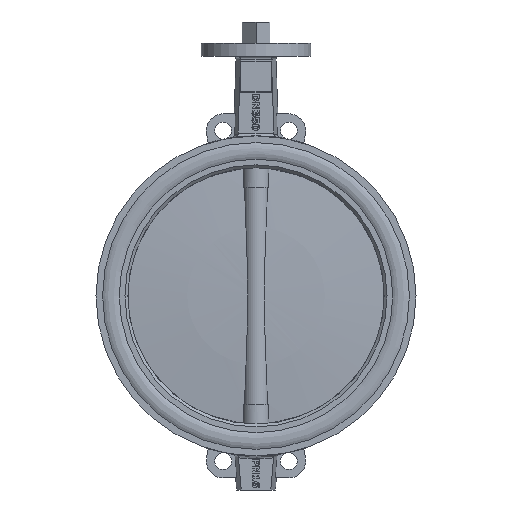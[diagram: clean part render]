
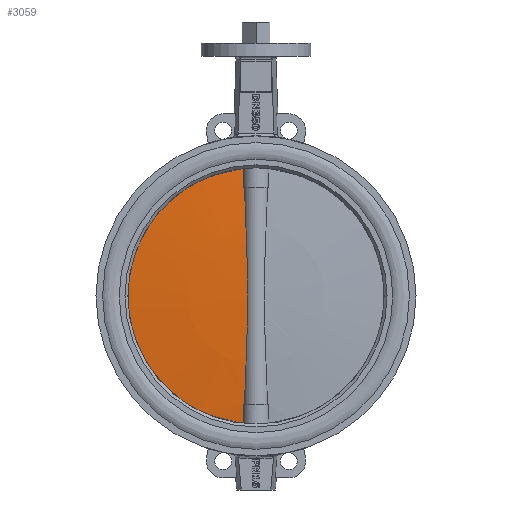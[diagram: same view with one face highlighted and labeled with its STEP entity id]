
A CAD part, left-side view. The second image highlights one B-rep face of the part: STEP entity #3059.
In plain terms, the highlighted spherical face has radius 2045.42 mm.
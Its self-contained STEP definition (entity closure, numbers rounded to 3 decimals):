
#3059=ADVANCED_FACE('',(#6642),#6644,.T.);
#6642=FACE_BOUND('',#6643,.T.);
#6643=EDGE_LOOP('',(#9570,#9571,#9572,#9573,#9574,#9575));
#6644=SPHERICAL_SURFACE('',#6645,2045.417);
#6645=AXIS2_PLACEMENT_3D('',#6646,#6647,#6648);
#6646=CARTESIAN_POINT('',(0.,-2031.917,0.));
#6647=DIRECTION('',(0.,-1.,0.));
#6648=DIRECTION('',(0.,0.,1.));
#9570=ORIENTED_EDGE('',*,*,#10709,.F.);
#9571=ORIENTED_EDGE('',*,*,#10721,.F.);
#9572=ORIENTED_EDGE('',*,*,#10722,.T.);
#9573=ORIENTED_EDGE('',*,*,#10723,.F.);
#9574=ORIENTED_EDGE('',*,*,#10692,.F.);
#9575=ORIENTED_EDGE('',*,*,#10720,.T.);
#10692=EDGE_CURVE('',#12567,#12568,#12569,.F.);
#10709=EDGE_CURVE('',#12600,#12585,#12602,.T.);
#10720=EDGE_CURVE('',#12567,#12585,#12617,.T.);
#10721=EDGE_CURVE('',#12618,#12600,#12619,.T.);
#10722=EDGE_CURVE('',#12618,#12620,#12621,.T.);
#10723=EDGE_CURVE('',#12568,#12620,#12622,.T.);
#12567=VERTEX_POINT('',#18837);
#12568=VERTEX_POINT('',#18838);
#12569=B_SPLINE_CURVE_WITH_KNOTS('',3,
(#18839,#18840,#18841,#18842,#18843,#18844,#18845),
.UNSPECIFIED.,.F.,.F.,
(4,1,1,1,4),
(0.,0.238,0.478,0.733,1.),
.UNSPECIFIED.);
#12585=VERTEX_POINT('',#18965);
#12600=VERTEX_POINT('',#19081);
#12602=B_SPLINE_CURVE_WITH_KNOTS('',3,
(#19086,#19087,#19088,#19089,#19090,#19091,#19092),
.UNSPECIFIED.,.F.,.F.,
(4,1,1,1,4),
(0.,0.238,0.478,0.733,1.),
.UNSPECIFIED.);
#12617=CIRCLE('',#19196,175.);
#12618=VERTEX_POINT('',#19200);
#12619=CIRCLE('',#19201,2040.077);
#12620=VERTEX_POINT('',#19205);
#12621=B_SPLINE_CURVE_WITH_KNOTS('',3,
(#19206,#19207,#19208,#19209,#19210,#19211,#19212,#19213,#19214,#19215,#19216,#19217,
#19218,#19219,#19220,#19221,#19222,#19223,#19224,#19225,#19226,#19227,#19228,#19229,
#19230,#19231,#19232,#19233,#19234,#19235,#19236,#19237,#19238,#19239,#19240,#19241),
.UNSPECIFIED.,.F.,.F.,
(4,1,1,1,1,1,1,1,1,1,1,1,1,1,1,1,1,1,1,1,1,1,1,1,1,1,1,1,1,1,1,1,1,4),
(0.,0.033,0.066,0.098,0.13,0.161,
0.192,0.222,0.252,0.281,0.309,
0.337,0.364,0.391,0.418,0.445,
0.472,0.5,0.5,0.528,0.556,
0.586,0.616,0.647,0.679,0.712,
0.745,0.78,0.815,0.851,0.888,
0.925,0.962,1.),
.UNSPECIFIED.);
#12622=CIRCLE('',#19242,2040.077);
#18837=CARTESIAN_POINT('',(17.526,6.,174.12));
#18838=CARTESIAN_POINT('',(16.664,8.092,147.7));
#18839=CARTESIAN_POINT('',(16.664,8.092,147.7));
#18840=CARTESIAN_POINT('',(16.738,7.94,149.796));
#18841=CARTESIAN_POINT('',(16.885,7.627,154.007));
#18842=CARTESIAN_POINT('',(17.102,7.128,160.461));
#18843=CARTESIAN_POINT('',(17.318,6.587,167.172));
#18844=CARTESIAN_POINT('',(17.457,6.202,171.767));
#18845=CARTESIAN_POINT('',(17.526,6.,174.12));
#18965=CARTESIAN_POINT('',(17.526,6.,-174.12));
#19081=CARTESIAN_POINT('',(16.664,8.092,-147.7));
#19086=CARTESIAN_POINT('',(16.664,8.092,-147.7));
#19087=CARTESIAN_POINT('',(16.738,7.94,-149.796));
#19088=CARTESIAN_POINT('',(16.885,7.627,-154.007));
#19089=CARTESIAN_POINT('',(17.102,7.128,-160.461));
#19090=CARTESIAN_POINT('',(17.318,6.587,-167.172));
#19091=CARTESIAN_POINT('',(17.457,6.202,-171.767));
#19092=CARTESIAN_POINT('',(17.526,6.,-174.12));
#19196=AXIS2_PLACEMENT_3D('',#19197,#19198,#19199);
#19197=CARTESIAN_POINT('',(0.,6.,0.));
#19198=DIRECTION('',(0.,1.,0.));
#19199=DIRECTION('',(0.1,0.,0.995));
#19200=CARTESIAN_POINT('',(15.769,8.099,-147.7));
#19201=AXIS2_PLACEMENT_3D('',#19202,#19203,#19204);
#19202=CARTESIAN_POINT('',(0.,-2031.917,-147.7));
#19203=DIRECTION('',(0.,0.,-1.));
#19204=DIRECTION('',(0.008,1.,0.));
#19205=CARTESIAN_POINT('',(15.769,8.099,147.7));
#19206=CARTESIAN_POINT('',(15.769,8.099,-147.7));
#19207=CARTESIAN_POINT('',(15.648,8.335,-144.464));
#19208=CARTESIAN_POINT('',(15.402,8.788,-138.018));
#19209=CARTESIAN_POINT('',(15.024,9.419,-128.387));
#19210=CARTESIAN_POINT('',(14.644,9.998,-118.862));
#19211=CARTESIAN_POINT('',(14.268,10.527,-109.445));
#19212=CARTESIAN_POINT('',(13.902,11.004,-100.188));
#19213=CARTESIAN_POINT('',(13.552,11.432,-91.093));
#19214=CARTESIAN_POINT('',(13.223,11.811,-82.213));
#19215=CARTESIAN_POINT('',(12.916,12.144,-73.494));
#19216=CARTESIAN_POINT('',(12.636,12.435,-64.951));
#19217=CARTESIAN_POINT('',(12.383,12.686,-56.544));
#19218=CARTESIAN_POINT('',(12.162,12.899,-48.305));
#19219=CARTESIAN_POINT('',(11.971,13.076,-40.177));
#19220=CARTESIAN_POINT('',(11.813,13.219,-32.139));
#19221=CARTESIAN_POINT('',(11.687,13.329,-24.135));
#19222=CARTESIAN_POINT('',(11.596,13.409,-16.141));
#19223=CARTESIAN_POINT('',(11.54,13.457,-8.129));
#19224=CARTESIAN_POINT('',(11.528,13.467,-2.745));
#19225=CARTESIAN_POINT('',(11.527,13.468,2.688));
#19226=CARTESIAN_POINT('',(11.54,13.456,8.248));
#19227=CARTESIAN_POINT('',(11.6,13.405,16.686));
#19228=CARTESIAN_POINT('',(11.703,13.316,25.359));
#19229=CARTESIAN_POINT('',(11.851,13.185,34.3));
#19230=CARTESIAN_POINT('',(12.043,13.009,43.485));
#19231=CARTESIAN_POINT('',(12.282,12.784,52.979));
#19232=CARTESIAN_POINT('',(12.564,12.508,62.693));
#19233=CARTESIAN_POINT('',(12.886,12.177,72.646));
#19234=CARTESIAN_POINT('',(13.243,11.789,82.793));
#19235=CARTESIAN_POINT('',(13.631,11.339,93.201));
#19236=CARTESIAN_POINT('',(14.044,10.825,103.804));
#19237=CARTESIAN_POINT('',(14.473,10.245,114.601));
#19238=CARTESIAN_POINT('',(14.91,9.6,125.528));
#19239=CARTESIAN_POINT('',(15.347,8.887,136.583));
#19240=CARTESIAN_POINT('',(15.63,8.369,143.984));
#19241=CARTESIAN_POINT('',(15.769,8.099,147.7));
#19242=AXIS2_PLACEMENT_3D('',#19243,#19244,#19245);
#19243=CARTESIAN_POINT('',(0.,-2031.917,147.7));
#19244=DIRECTION('',(0.,0.,1.));
#19245=DIRECTION('',(0.008,1.,0.));
